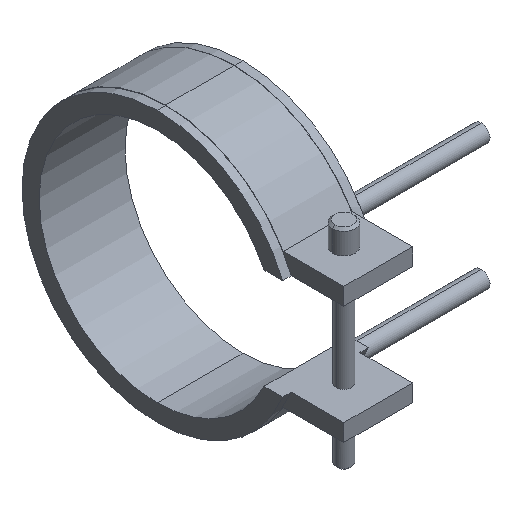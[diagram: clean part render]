
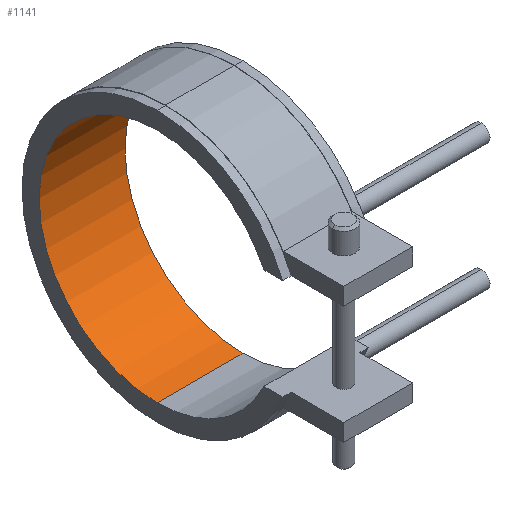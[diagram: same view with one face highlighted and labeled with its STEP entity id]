
A CAD part, isometric view. The second image highlights one B-rep face of the part: STEP entity #1141.
In plain terms, the highlighted cylindrical face has radius 27.5 mm (diameter 55 mm), a partial arc.
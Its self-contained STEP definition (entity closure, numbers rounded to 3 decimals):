
#822=CARTESIAN_POINT('Vertex',(-10.,0.,-27.5)) ;
#829=CARTESIAN_POINT('Vertex',(10.,0.,-27.5)) ;
#832=CARTESIAN_POINT('Line Origine',(10.,0.,-27.5)) ;
#850=CARTESIAN_POINT('Axis2P3D Location',(-10.,0.,0.)) ;
#854=CARTESIAN_POINT('Vertex',(-10.,0.,27.5)) ;
#911=CARTESIAN_POINT('Vertex',(10.,0.,27.5)) ;
#921=CARTESIAN_POINT('Line Origine',(10.,0.,27.5)) ;
#1012=CARTESIAN_POINT('Axis2P3D Location',(10.,0.,0.)) ;
#1130=CARTESIAN_POINT('Axis2P3D Location',(10.,0.,0.)) ;
#833=DIRECTION('Vector Direction',(1.,0.,0.)) ;
#851=DIRECTION('Axis2P3D Direction',(1.,0.,0.)) ;
#922=DIRECTION('Vector Direction',(1.,0.,0.)) ;
#1013=DIRECTION('Axis2P3D Direction',(1.,0.,0.)) ;
#1131=DIRECTION('Axis2P3D Direction',(1.,0.,-0.)) ;
#1132=DIRECTION('Axis2P3D XDirection',(0.,0.,-1.)) ;
#852=AXIS2_PLACEMENT_3D('Circle Axis2P3D',#850,#851,$) ;
#1014=AXIS2_PLACEMENT_3D('Circle Axis2P3D',#1012,#1013,$) ;
#1133=AXIS2_PLACEMENT_3D('Cylinder Axis2P3D',#1130,#1131,#1132) ;
#1136=ORIENTED_EDGE('',*,*,#1016,.T.) ;
#1137=ORIENTED_EDGE('',*,*,#925,.T.) ;
#1138=ORIENTED_EDGE('',*,*,#856,.F.) ;
#1139=ORIENTED_EDGE('',*,*,#836,.T.) ;
#834=VECTOR('Line Direction',#833,1.) ;
#923=VECTOR('Line Direction',#922,1.) ;
#1141=ADVANCED_FACE('14055020',(#1140),#1134,.F.) ;
#853=CIRCLE('generated circle',#852,27.5) ;
#1015=CIRCLE('generated circle',#1014,27.5) ;
#1134=CYLINDRICAL_SURFACE('generated cylinder',#1133,27.5) ;
#836=EDGE_CURVE('',#823,#830,#835,.T.) ;
#856=EDGE_CURVE('',#823,#855,#853,.T.) ;
#925=EDGE_CURVE('',#912,#855,#924,.F.) ;
#1016=EDGE_CURVE('',#830,#912,#1015,.T.) ;
#1135=EDGE_LOOP('',(#1136,#1137,#1138,#1139)) ;
#1140=FACE_OUTER_BOUND('',#1135,.T.) ;
#835=LINE('Line',#832,#834) ;
#924=LINE('Line',#921,#923) ;
#823=VERTEX_POINT('',#822) ;
#830=VERTEX_POINT('',#829) ;
#855=VERTEX_POINT('',#854) ;
#912=VERTEX_POINT('',#911) ;
